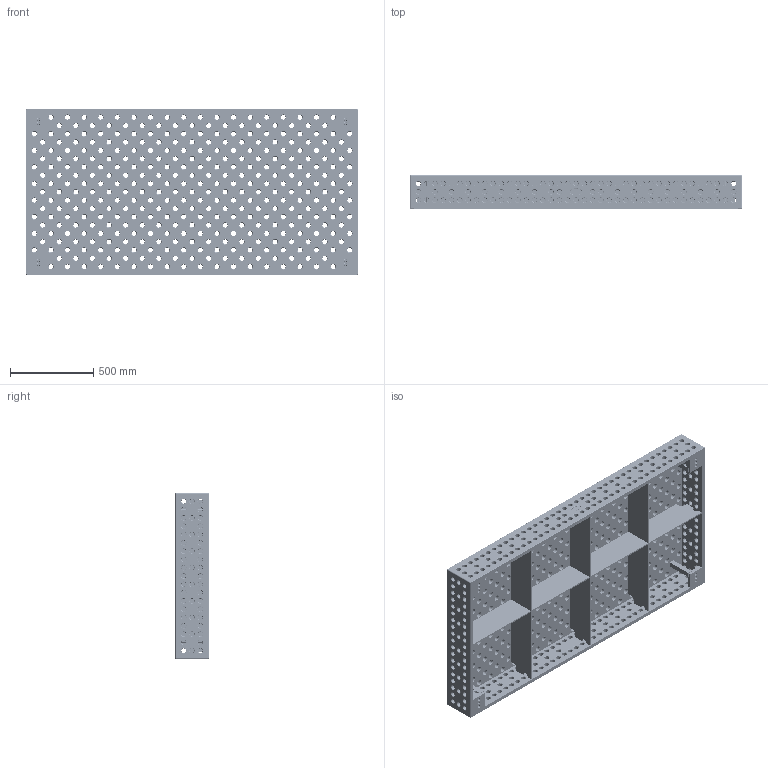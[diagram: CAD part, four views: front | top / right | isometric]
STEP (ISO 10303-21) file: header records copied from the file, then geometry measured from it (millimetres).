
FILE_DESCRIPTION (( 'STEP AP203' ), '1' );
FILE_NAME ('280020.XD7D.STEP', '2020-11-30T14:17:21', ( '' ), ( '' ), 'SwSTEP 2.0', 'SolidWorks 2019', '' );
FILE_SCHEMA (( 'CONFIG_CONTROL_DESIGN' ));
Length unit declared in the file: millimetre
Products named in the file (1): 280020.XD7D
Bounding box: 2000 x 200 x 1000 mm (x, y, z)
Volume: 72446355.5 mm3; surface area: 8412891.8 mm2
Topology: 1 solids, 1 shells, 4176 faces, 9854 edges, 5664 vertices
Faces by surface type: cylinder 1382, cone 1374, torus 1326, plane 86, bspline 8
Entity records: 124601 total; most frequent: DIRECTION 24966, CARTESIAN_POINT 21035, ORIENTED_EDGE 19708, AXIS2_PLACEMENT_3D 10959, EDGE_CURVE 9854, CIRCLE 6790, VERTEX_POINT 5664, EDGE_LOOP 5546
